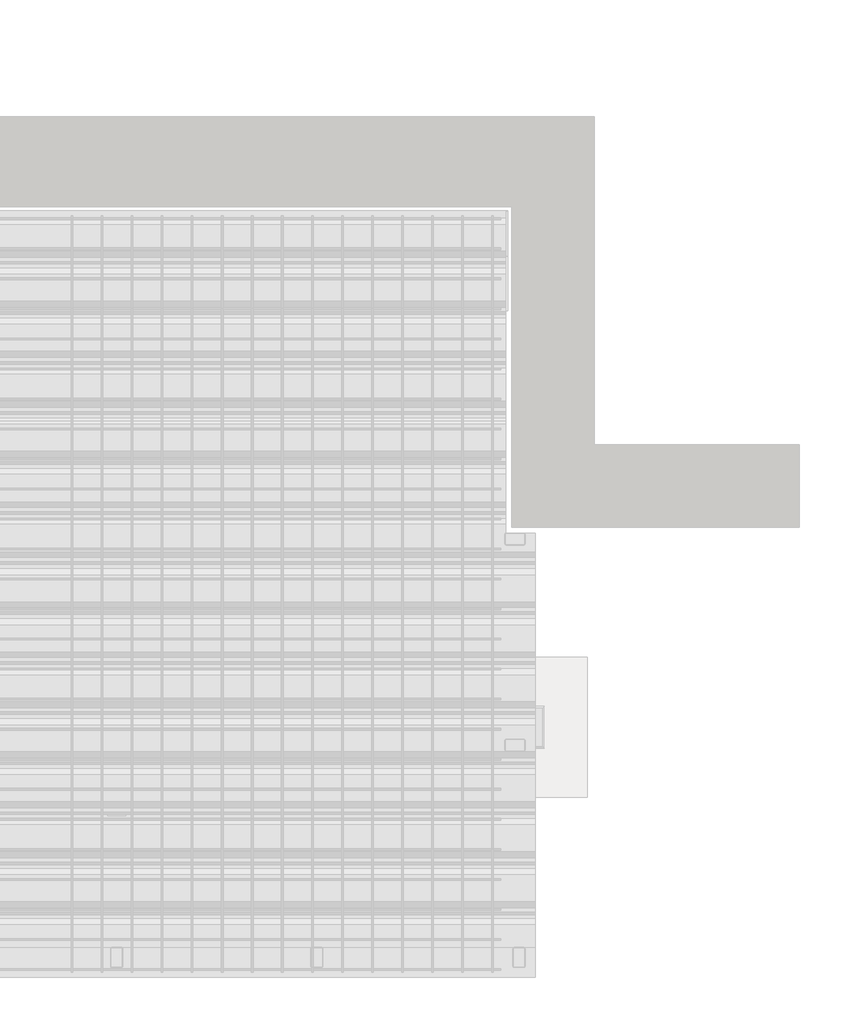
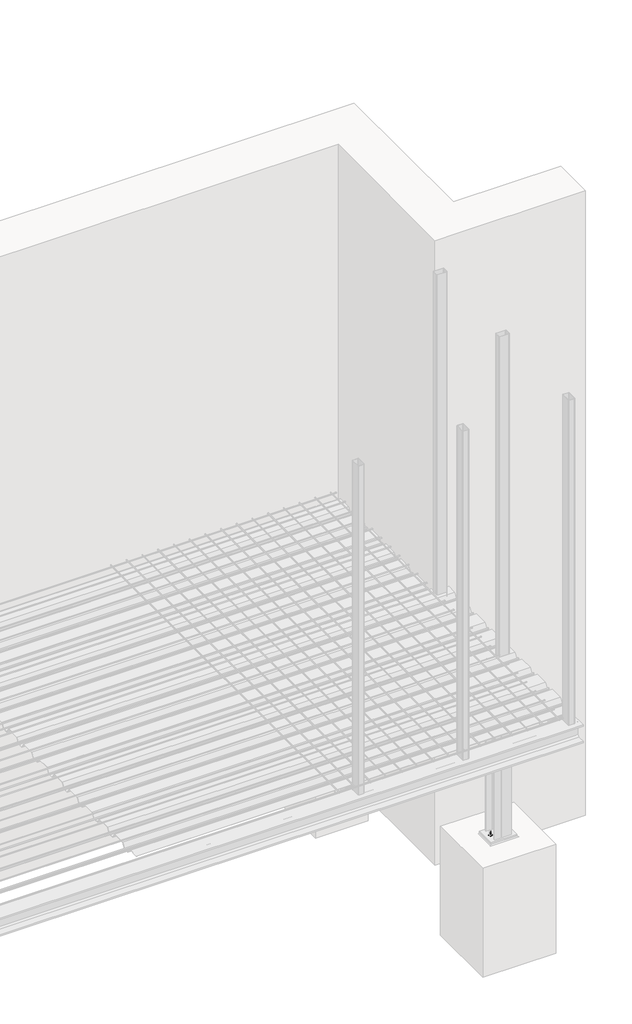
# One storey, part 35 of 36: 6 assemblies.
"""IFC4 building model written with IfcOpenShell, lengths in millimetres."""

import ifcopenshell
import ifcopenshell.guid

model = None  # the IFC model being written
_history = None  # IfcOwnerHistory: only IFC2X3 demands one
_inside = {}  # id of a spatial element -> (the spatial element, [elements in it])
_under = {}  # id of a project, library or spatial element -> (it, [spatial elements below it])
_declared = {}  # id of a project -> (the project, [libraries it declares])
_typed = {}  # id of a type object -> (the type object, [elements of that type])
_made_of = {}  # id of a material, layer set ... -> (it, [elements and type objects made of it])


def new_model(schema):
    """Start an empty IFC model of exactly this schema.

    Asked for "IFC4X3", IfcOpenShell would pick the latest addendum, in which some entities
    have other attributes; the version numbers below select the first issue.
    IFC2X3 requires an IfcOwnerHistory on every rooted entity: one is made here for all.
    """
    global model, _history
    if schema == "IFC4X3":
        model = ifcopenshell.file(schema_version=(4, 3, 0, 0))
    else:
        model = ifcopenshell.file(schema=schema)
    _inside.clear()
    _under.clear()
    _declared.clear()
    _typed.clear()
    _made_of.clear()
    _history = None
    if model.schema == "IFC2X3":
        org = make("IfcOrganization", Name="unknown")
        user = make(
            "IfcPersonAndOrganization",
            ThePerson=make("IfcPerson", FamilyName="unknown"),
            TheOrganization=org,
        )
        app = make(
            "IfcApplication",
            ApplicationDeveloper=org,
            Version="unknown",
            ApplicationFullName="unknown",
            ApplicationIdentifier="unknown",
        )
        _history = make(
            "IfcOwnerHistory",
            OwningUser=user,
            OwningApplication=app,
            ChangeAction="ADDED",
            CreationDate=0,
        )
    return model


def make(cls, **values):
    """One entity of the class cls with the attributes given. An attribute that is None is left unset."""
    return model.create_entity(
        cls, **{name: value for name, value in values.items() if value is not None}
    )


def rooted(cls, **values):
    """An entity with a GlobalId (a new one), such as an element, a storey or a relation."""
    return make(cls, GlobalId=ifcopenshell.guid.new(), OwnerHistory=_history, **values)


def si_unit(unit_type, name, prefix=None):
    """IfcSIUnit, for example si_unit("LENGTHUNIT", "METRE", prefix="MILLI")."""
    return make("IfcSIUnit", UnitType=unit_type, Prefix=prefix, Name=name)


def assignment(units):
    """IfcUnitAssignment: the units of a project."""
    return None if units is None else make("IfcUnitAssignment", Units=units)


def point(xyz):
    """IfcCartesianPoint."""
    return None if xyz is None else make("IfcCartesianPoint", Coordinates=xyz)


def direction(xyz):
    """IfcDirection."""
    return None if xyz is None else make("IfcDirection", DirectionRatios=xyz)


def frame(location, z_axis=None, x_axis=None):
    """IfcAxis2Placement3D, a coordinate frame: its origin and axes. An axis left out is left unset."""
    return make(
        "IfcAxis2Placement3D",
        Location=point(location),
        Axis=direction(z_axis),
        RefDirection=direction(x_axis),
    )


def frame_2d(location, x_axis=None):
    """IfcAxis2Placement2D, a coordinate frame in the plane: its origin and x axis."""
    return make(
        "IfcAxis2Placement2D", Location=point(location), RefDirection=direction(x_axis)
    )


def origin():
    """The frame at (0, 0, 0) with its axes left unset."""
    return frame((0.0, 0.0, 0.0))


def place(relative_to, where):
    """IfcLocalPlacement: puts the frame where relative to a parent placement (None: the world)."""
    return make(
        "IfcLocalPlacement", PlacementRelTo=relative_to, RelativePlacement=where
    )


def context(
    kind, dimensions, precision=None, world=None, true_north=None, identifier=None
):
    """IfcGeometricRepresentationContext, for example the 3D "Model" context."""
    return make(
        "IfcGeometricRepresentationContext",
        ContextIdentifier=identifier,
        ContextType=kind,
        CoordinateSpaceDimension=dimensions,
        Precision=precision,
        WorldCoordinateSystem=world,
        TrueNorth=true_north,
    )


def project(units=None, contexts=None):
    """IfcProject with its units and contexts."""
    return rooted(
        "IfcProject",
        Name="project",
        RepresentationContexts=contexts,
        UnitsInContext=assignment(units),
    )


def spatial(cls, under=None, at=None, **own):
    """A site, building, storey or space (cls), placed at a placement, below another one or the project."""
    s = rooted(cls, ObjectPlacement=at, **own)
    if under is not None:
        _under.setdefault(under.id(), (under, []))[1].append(s)
    return s


def polyline(points):
    """IfcPolyline through the points."""
    return make("IfcPolyline", Points=[point(p) for p in points])


def circle_curve(where, radius):
    """IfcCircle in the frame where."""
    return make("IfcCircle", Position=where, Radius=radius)


def trimmed(basis, trim1, trim2, sense, master):
    """IfcTrimmedCurve: the piece of a basis curve between two trims."""
    return make(
        "IfcTrimmedCurve",
        BasisCurve=basis,
        Trim1=trim1,
        Trim2=trim2,
        SenseAgreement=sense,
        MasterRepresentation=master,
    )


def segment(curve, same_sense, transition):
    """IfcCompositeCurveSegment."""
    return make(
        "IfcCompositeCurveSegment",
        Transition=transition,
        SameSense=same_sense,
        ParentCurve=curve,
    )


def composite_curve(segments, self_intersect=None):
    """IfcCompositeCurve: segments joined end to end."""
    return make("IfcCompositeCurve", Segments=segments, SelfIntersect=self_intersect)


def outline(outer, holes=None, kind="AREA"):
    """IfcArbitraryClosedProfileDef: a profile drawn as a closed curve; with holes, ...WithVoids."""
    if holes is None:
        return make("IfcArbitraryClosedProfileDef", ProfileType=kind, OuterCurve=outer)
    return make(
        "IfcArbitraryProfileDefWithVoids",
        ProfileType=kind,
        OuterCurve=outer,
        InnerCurves=holes,
    )


def extrude(swept, where, along, depth):
    """IfcExtrudedAreaSolid: the profile swept, set in the frame where, extruded along a direction by depth."""
    return make(
        "IfcExtrudedAreaSolid",
        SweptArea=swept,
        Position=where,
        ExtrudedDirection=direction(along),
        Depth=depth,
    )


def faces_of(points, faces, orient=None, outer=None):
    """IfcFace entities. A face is a list of loops; a loop is a list of indices into points, from 0.

    orient and outer hold one flag for each loop. By default every Orientation is true, the
    first loop of a face is its IfcFaceOuterBound and the others are IfcFaceBound.
    """
    made = []
    for i, loops in enumerate(faces):
        bounds = []
        for j, loop in enumerate(loops):
            is_outer = j == 0 if outer is None else outer[i][j]
            bounds.append(
                make(
                    "IfcFaceOuterBound" if is_outer else "IfcFaceBound",
                    Bound=make("IfcPolyLoop", Polygon=[points[k] for k in loop]),
                    Orientation=True if orient is None else orient[i][j],
                )
            )
        made.append(make("IfcFace", Bounds=bounds))
    return made


def faceted_brep(points, faces, orient=None, outer=None, voids=None):
    """IfcFacetedBrep: a solid bounded by flat faces; with voids (closed shells), ...WithVoids."""
    shared = [point(p) for p in points]
    hull = make("IfcClosedShell", CfsFaces=faces_of(shared, faces, orient, outer))
    if voids is None:
        return make("IfcFacetedBrep", Outer=hull)
    return make(
        "IfcFacetedBrepWithVoids",
        Outer=hull,
        Voids=[
            make(cls, CfsFaces=faces_of(shared, fs, o, b)) for cls, fs, o, b in voids
        ],
    )


def shape(context_of_items, identifier, shape_type, items):
    """IfcShapeRepresentation: the items that make up one representation, for example the "Body"."""
    return make(
        "IfcShapeRepresentation",
        ContextOfItems=context_of_items,
        RepresentationIdentifier=identifier,
        RepresentationType=shape_type,
        Items=items,
    )


def made_of(thing, what):
    """Note that an element or type object is made of a material, layer set ...; save() writes the relation."""
    if what is not None:
        _made_of.setdefault(what.id(), (what, []))[1].append(thing)
    return thing


def element(
    cls,
    number,
    at=None,
    inside=None,
    cuts=None,
    type_object=None,
    material=None,
    context=None,
    identifier="Body",
    shape_type=None,
    held_by="IfcProductDefinitionShape",
    body=None,
    shapes=None,
    **own,
):
    """One element of the class cls, such as IfcWall. Its Tag is "e" and its number.

    at: its placement. inside: the storey or other place that contains it. cuts: it is an
    opening in that element (IfcRelVoidsElement). A single representation is given by context,
    identifier, shape_type and body (its items); several are given by shapes. held_by: the class
    of the entity that holds the representations. save() writes the other relations.
    """
    e = rooted(cls, Tag="e%d" % number, ObjectPlacement=at, **own)
    if body is not None:
        shapes = [shape(context, identifier, shape_type, body)]
    if shapes is not None:
        e.Representation = make(held_by, Representations=shapes)
    if inside is not None:
        _inside.setdefault(inside.id(), (inside, []))[1].append(e)
    if cuts is not None:
        rooted(
            "IfcRelVoidsElement", RelatingBuildingElement=cuts, RelatedOpeningElement=e
        )
    if type_object is not None:
        _typed.setdefault(type_object.id(), (type_object, []))[1].append(e)
    return made_of(e, material)


def aggregate(whole, parts):
    """IfcRelAggregates: a whole, such as a stair, and the parts it consists of."""
    return rooted("IfcRelAggregates", RelatingObject=whole, RelatedObjects=parts)


def save(model, path):
    """Write the relations noted so far, then the file.

    IfcRelAggregates (storeys below a building ...), IfcRelContainedInSpatialStructure (elements
    in a storey), IfcRelDefinesByType, IfcRelAssociatesMaterial and IfcRelDeclares: one each for
    every whole, place, type object, material and project.
    """
    for whole, parts in _under.values():
        aggregate(whole, parts)
    for where, things in _inside.values():
        rooted(
            "IfcRelContainedInSpatialStructure",
            RelatedElements=things,
            RelatingStructure=where,
        )
    for kind, things in _typed.values():
        rooted("IfcRelDefinesByType", RelatedObjects=things, RelatingType=kind)
    for what, things in _made_of.values():
        rooted("IfcRelAssociatesMaterial", RelatedObjects=things, RelatingMaterial=what)
    for by, libraries in _declared.values():
        rooted("IfcRelDeclares", RelatingContext=by, RelatedDefinitions=libraries)
    model.write(path)


model = new_model("IFC4")

# Units and contexts
model_context = context("Model", 3, world=origin())
ifc_project = project(units=[si_unit("LENGTHUNIT", "METRE", prefix="MILLI")], contexts=[model_context])

# Site, building, storey
site = spatial("IfcSite", under=ifc_project)
building = spatial("IfcBuilding", under=site)
storey = spatial("IfcBuildingStorey", under=building, Name="Základy", Elevation=-1200.0)

# Assemblies
placement = place(None, origin())
element("IfcElementAssembly", 1, at=placement, inside=storey, context=model_context, shape_type="SweptSolid", body=[
    extrude(outline(composite_curve([segment(polyline([(16090.0, 1193.6), (16090.0, 1146.4)]), True, "CONTINUOUS"), segment(trimmed(circle_curve(frame_2d((16083.6, 1146.4)), 6.4), [point((16090.0, 1146.4))], [point((16083.6, 1140.0))], False, "CARTESIAN"), True, "CONTINUOUS"), segment(polyline([(16083.6, 1140.0), (15996.4, 1140.0)]), True, "CONTINUOUS"), segment(trimmed(circle_curve(frame_2d((15996.4, 1146.4)), 6.4), [point((15996.4, 1140.0))], [point((15990.0, 1146.4))], False, "CARTESIAN"), True, "CONTINUOUS"), segment(polyline([(15990.0, 1146.4), (15990.0, 1193.6)]), True, "CONTINUOUS"), segment(trimmed(circle_curve(frame_2d((15996.4, 1193.6)), 6.4), [point((15990.0, 1193.6))], [point((15996.4, 1200.0))], False, "CARTESIAN"), True, "CONTINUOUS"), segment(polyline([(15996.4, 1200.0), (16083.6, 1200.0)]), True, "CONTINUOUS"), segment(trimmed(circle_curve(frame_2d((16083.6, 1193.6)), 6.4), [point((16083.6, 1200.0))], [point((16090.0, 1193.6))], False, "CARTESIAN"), True, "CONTINUOUS")], self_intersect=False), holes=[composite_curve([segment(trimmed(circle_curve(frame_2d((16083.6, 1193.6)), 3.2), [point((16086.8, 1193.6))], [point((16083.6, 1196.8))], True, "CARTESIAN"), True, "CONTINUOUS"), segment(polyline([(16083.6, 1196.8), (15996.4, 1196.8)]), True, "CONTINUOUS"), segment(trimmed(circle_curve(frame_2d((15996.4, 1193.6)), 3.2), [point((15996.4, 1196.8))], [point((15993.2, 1193.6))], True, "CARTESIAN"), True, "CONTINUOUS"), segment(polyline([(15993.2, 1193.6), (15993.2, 1146.4)]), True, "CONTINUOUS"), segment(trimmed(circle_curve(frame_2d((15996.4, 1146.4)), 3.2), [point((15993.2, 1146.4))], [point((15996.4, 1143.2))], True, "CARTESIAN"), True, "CONTINUOUS"), segment(polyline([(15996.4, 1143.2), (16083.6, 1143.2)]), True, "CONTINUOUS"), segment(trimmed(circle_curve(frame_2d((16083.6, 1146.4)), 3.2), [point((16083.6, 1143.2))], [point((16086.8, 1146.4))], True, "CARTESIAN"), True, "CONTINUOUS"), segment(polyline([(16086.8, 1146.4), (16086.8, 1193.6)]), True, "CONTINUOUS")], self_intersect=False)]), frame((0.0, 0.0, -160.0), z_axis=(0.0, 0.0, 1.0), x_axis=(1.0, 0.0, 0.0)), (0.0, 0.0, 1.0), 3280.0),
])
element("IfcElementAssembly", 2, at=placement, inside=storey, context=model_context, shape_type="SweptSolid", body=[
    extrude(outline(polyline([(16400.0, 1610.0), (16400.0, 910.0), (15700.0, 910.0), (15700.0, 1610.0), (16400.0, 1610.0)])), frame((0.0, 0.0, -3100.0), z_axis=(0.0, 0.0, 1.0), x_axis=(1.0, 0.0, 0.0)), (0.0, 0.0, 1.0), 1100.0),
])
element("IfcElementAssembly", 3, at=placement, inside=storey, context=model_context, shape_type="SweptSolid", body=[
    extrude(outline(composite_curve([segment(polyline([(16036.4, 160.0), (16083.6, 160.0)]), True, "CONTINUOUS"), segment(trimmed(circle_curve(frame_2d((16083.6, 153.6)), 6.4), [point((16083.6, 160.0))], [point((16090.0, 153.6))], False, "CARTESIAN"), True, "CONTINUOUS"), segment(polyline([(16090.0, 153.6), (16090.0, 66.4)]), True, "CONTINUOUS"), segment(trimmed(circle_curve(frame_2d((16083.6, 66.4)), 6.4), [point((16090.0, 66.4))], [point((16083.6, 60.0))], False, "CARTESIAN"), True, "CONTINUOUS"), segment(polyline([(16083.6, 60.0), (16036.4, 60.0)]), True, "CONTINUOUS"), segment(trimmed(circle_curve(frame_2d((16036.4, 66.4)), 6.4), [point((16036.4, 60.0))], [point((16030.0, 66.4))], False, "CARTESIAN"), True, "CONTINUOUS"), segment(polyline([(16030.0, 66.4), (16030.0, 153.6)]), True, "CONTINUOUS"), segment(trimmed(circle_curve(frame_2d((16036.4, 153.6)), 6.4), [point((16030.0, 153.6))], [point((16036.4, 160.0))], False, "CARTESIAN"), True, "CONTINUOUS")], self_intersect=False), holes=[composite_curve([segment(trimmed(circle_curve(frame_2d((16036.4, 153.6)), 3.2), [point((16036.4, 156.8))], [point((16033.2, 153.6))], True, "CARTESIAN"), True, "CONTINUOUS"), segment(polyline([(16033.2, 153.6), (16033.2, 66.4)]), True, "CONTINUOUS"), segment(trimmed(circle_curve(frame_2d((16036.4, 66.4)), 3.2), [point((16033.2, 66.4))], [point((16036.4, 63.2))], True, "CARTESIAN"), True, "CONTINUOUS"), segment(polyline([(16036.4, 63.2), (16083.6, 63.2)]), True, "CONTINUOUS"), segment(trimmed(circle_curve(frame_2d((16083.6, 66.4)), 3.2), [point((16083.6, 63.2))], [point((16086.8, 66.4))], True, "CARTESIAN"), True, "CONTINUOUS"), segment(polyline([(16086.8, 66.4), (16086.8, 153.6)]), True, "CONTINUOUS"), segment(trimmed(circle_curve(frame_2d((16083.6, 153.6)), 3.2), [point((16086.8, 153.6))], [point((16083.6, 156.8))], True, "CARTESIAN"), True, "CONTINUOUS"), segment(polyline([(16083.6, 156.8), (16036.4, 156.8)]), True, "CONTINUOUS")], self_intersect=False)]), frame((0.0, 0.0, -160.0), z_axis=(0.0, 0.0, 1.0), x_axis=(1.0, 0.0, 0.0)), (0.0, 0.0, 1.0), 3280.0),
])
element("IfcElementAssembly", 4, at=placement, inside=storey, context=model_context, shape_type="SweptSolid", body=[
    extrude(outline(composite_curve([segment(polyline([(16130.0, 1184.0), (15970.0, 1184.0), (15970.0, 1193.0), (16032.0, 1193.0)]), True, "CONTINUOUS"), segment(trimmed(circle_curve(frame_2d((16032.0, 1208.0)), 15.0), [point((16032.0, 1193.0))], [point((16047.0, 1208.0))], True, "CARTESIAN"), True, "CONTINUOUS"), segment(polyline([(16047.0, 1208.0), (16047.0, 1312.0)]), True, "CONTINUOUS"), segment(trimmed(circle_curve(frame_2d((16032.0, 1312.0)), 15.0), [point((16047.0, 1312.0))], [point((16032.0, 1327.0))], True, "CARTESIAN"), True, "CONTINUOUS"), segment(polyline([(16032.0, 1327.0), (15970.0, 1327.0), (15970.0, 1336.0), (16130.0, 1336.0), (16130.0, 1327.0), (16068.0, 1327.0)]), True, "CONTINUOUS"), segment(trimmed(circle_curve(frame_2d((16068.0, 1312.0)), 15.0), [point((16068.0, 1327.0))], [point((16053.0, 1312.0))], True, "CARTESIAN"), True, "CONTINUOUS"), segment(polyline([(16053.0, 1312.0), (16053.0, 1208.0)]), True, "CONTINUOUS"), segment(trimmed(circle_curve(frame_2d((16068.0, 1208.0)), 15.0), [point((16053.0, 1208.0))], [point((16068.0, 1193.0))], True, "CARTESIAN"), True, "CONTINUOUS"), segment(polyline([(16068.0, 1193.0), (16130.0, 1193.0), (16130.0, 1184.0)]), True, "CONTINUOUS")], self_intersect=False)), frame((0.0, 0.0, -1975.0), z_axis=(0.0, 0.0, 1.0), x_axis=(1.0, 0.0, 0.0)), (0.0, 0.0, 1.0), 1625.0),
    extrude(outline(polyline([(16175.0, 1356.0), (16175.0, 1164.0), (15925.0, 1164.0), (15925.0, 1356.0), (16175.0, 1356.0)])), frame((0.0, 0.0, -1990.0), z_axis=(0.0, 0.0, 1.0), x_axis=(1.0, 0.0, 0.0)), (0.0, 0.0, 1.0), 15.0),
    extrude(outline(polyline([(16140.0, 1346.0), (16140.0, 1174.0), (15960.0, 1174.0), (15960.0, 1346.0), (16140.0, 1346.0)])), frame((0.0, 0.0, -350.0), z_axis=(0.0, 0.0, 1.0), x_axis=(1.0, 0.0, 0.0)), (0.0, 0.0, 1.0), 10.0),
    extrude(outline(polyline([(15982.7364934, 1260.0), (15978.8682467, 1253.3000002), (15971.1317533, 1253.3000002), (15967.2635066, 1260.0), (15971.1317533, 1266.6999998), (15978.8682467, 1266.6999998), (15982.7364934, 1260.0)])), frame((0.0, 0.0, -2122.0), z_axis=(0.0, 0.0, 1.0), x_axis=(1.0, 0.0, 0.0)), (0.0, 0.0, 1.0), 132.0),
    extrude(outline(composite_curve([segment(trimmed(circle_curve(frame_2d((15975.0, 1260.0)), 8.0), [point((15983.0, 1260.0))], [point((15967.0, 1260.0))], False, "CARTESIAN"), True, "CONTINUOUS"), segment(trimmed(circle_curve(frame_2d((15975.0, 1260.0)), 8.0), [point((15967.0, 1260.0))], [point((15983.0, 1260.0))], False, "CARTESIAN"), True, "CONTINUOUS")], self_intersect=False)), frame((0.0, 0.0, -1990.0), z_axis=(0.0, 0.0, 1.0), x_axis=(1.0, 0.0, 0.0)), (0.0, 0.0, 1.0), 58.0),
    extrude(outline(composite_curve([segment(trimmed(circle_curve(frame_2d((15975.0, 1260.0)), 15.0), [point((15990.0, 1260.0))], [point((15960.0, 1260.0))], False, "CARTESIAN"), True, "CONTINUOUS"), segment(trimmed(circle_curve(frame_2d((15975.0, 1260.0)), 15.0), [point((15960.0, 1260.0))], [point((15990.0, 1260.0))], False, "CARTESIAN"), True, "CONTINUOUS")], self_intersect=False)), frame((0.0, 0.0, -1975.0), z_axis=(0.0, 0.0, 1.0), x_axis=(1.0, 0.0, 0.0)), (0.0, 0.0, 1.0), 3.0),
    extrude(outline(polyline([(15990.4441197, 1260.0), (15982.7220599, 1246.625), (15967.2779401, 1246.625), (15959.5558803, 1260.0), (15967.2779401, 1273.375), (15982.7220599, 1273.375), (15990.4441197, 1260.0)])), frame((0.0, 0.0, -1972.0), z_axis=(0.0, 0.0, 1.0), x_axis=(1.0, 0.0, 0.0)), (0.0, 0.0, 1.0), 13.0),
    extrude(outline(composite_curve([segment(trimmed(circle_curve(frame_2d((15975.0, 1260.0)), 9.0), [point((15984.0, 1260.0))], [point((15966.0, 1260.0))], False, "CARTESIAN"), True, "CONTINUOUS"), segment(trimmed(circle_curve(frame_2d((15975.0, 1260.0)), 9.0), [point((15966.0, 1260.0))], [point((15984.0, 1260.0))], False, "CARTESIAN"), True, "CONTINUOUS")], self_intersect=False)), frame((0.0, 0.0, -1990.0), z_axis=(0.0, 0.0, 1.0), x_axis=(1.0, 0.0, 0.0)), (0.0, 0.0, 1.0), 15.1),
    extrude(outline(polyline([(16132.7364934, 1260.0), (16128.8682467, 1253.3000002), (16121.1317533, 1253.3000002), (16117.2635066, 1260.0), (16121.1317533, 1266.6999998), (16128.8682467, 1266.6999998), (16132.7364934, 1260.0)])), frame((0.0, 0.0, -2122.0), z_axis=(0.0, 0.0, 1.0), x_axis=(1.0, 0.0, 0.0)), (0.0, 0.0, 1.0), 132.0),
    extrude(outline(composite_curve([segment(trimmed(circle_curve(frame_2d((16125.0, 1260.0)), 8.0), [point((16133.0, 1260.0))], [point((16117.0, 1260.0))], False, "CARTESIAN"), True, "CONTINUOUS"), segment(trimmed(circle_curve(frame_2d((16125.0, 1260.0)), 8.0), [point((16117.0, 1260.0))], [point((16133.0, 1260.0))], False, "CARTESIAN"), True, "CONTINUOUS")], self_intersect=False)), frame((0.0, 0.0, -1990.0), z_axis=(0.0, 0.0, 1.0), x_axis=(1.0, 0.0, 0.0)), (0.0, 0.0, 1.0), 58.0),
    extrude(outline(composite_curve([segment(trimmed(circle_curve(frame_2d((16125.0, 1260.0)), 15.0), [point((16140.0, 1260.0))], [point((16110.0, 1260.0))], False, "CARTESIAN"), True, "CONTINUOUS"), segment(trimmed(circle_curve(frame_2d((16125.0, 1260.0)), 15.0), [point((16110.0, 1260.0))], [point((16140.0, 1260.0))], False, "CARTESIAN"), True, "CONTINUOUS")], self_intersect=False)), frame((0.0, 0.0, -1975.0), z_axis=(0.0, 0.0, 1.0), x_axis=(1.0, 0.0, 0.0)), (0.0, 0.0, 1.0), 3.0),
    extrude(outline(polyline([(16140.4441197, 1260.0), (16132.7220599, 1246.625), (16117.2779401, 1246.625), (16109.5558803, 1260.0), (16117.2779401, 1273.375), (16132.7220599, 1273.375), (16140.4441197, 1260.0)])), frame((0.0, 0.0, -1972.0), z_axis=(0.0, 0.0, 1.0), x_axis=(1.0, 0.0, 0.0)), (0.0, 0.0, 1.0), 13.0),
    extrude(outline(composite_curve([segment(trimmed(circle_curve(frame_2d((16125.0, 1260.0)), 9.0), [point((16134.0, 1260.0))], [point((16116.0, 1260.0))], False, "CARTESIAN"), True, "CONTINUOUS"), segment(trimmed(circle_curve(frame_2d((16125.0, 1260.0)), 9.0), [point((16116.0, 1260.0))], [point((16134.0, 1260.0))], False, "CARTESIAN"), True, "CONTINUOUS")], self_intersect=False)), frame((0.0, 0.0, -1990.0), z_axis=(0.0, 0.0, 1.0), x_axis=(1.0, 0.0, 0.0)), (0.0, 0.0, 1.0), 15.1),
    extrude(outline(composite_curve([segment(trimmed(circle_curve(frame_2d((16000.0, 1220.0)), 6.5), [point((16006.5, 1220.0))], [point((15993.5, 1220.0))], False, "CARTESIAN"), True, "CONTINUOUS"), segment(trimmed(circle_curve(frame_2d((16000.0, 1220.0)), 6.5), [point((15993.5, 1220.0))], [point((16006.5, 1220.0))], False, "CARTESIAN"), True, "CONTINUOUS")], self_intersect=False)), frame((0.0, 0.0, -350.0), z_axis=(0.0, 0.0, 1.0), x_axis=(1.0, 0.0, 0.0)), (0.0, 0.0, 1.0), 10.1),
    extrude(outline(polyline([(16010.3923048, 1220.0), (16005.1961524, 1211.0), (15994.8038476, 1211.0), (15989.6076952, 1220.0), (15994.8038476, 1229.0), (16005.1961524, 1229.0), (16010.3923048, 1220.0)])), frame((0.0, 0.0, -323.5), z_axis=(0.0, 0.0, 1.0), x_axis=(1.0, 0.0, 0.0)), (0.0, 0.0, 1.0), 7.5),
    extrude(outline(composite_curve([segment(trimmed(circle_curve(frame_2d((16000.0, 1220.0)), 6.0), [point((16006.0, 1220.0))], [point((15994.0, 1220.0))], False, "CARTESIAN"), True, "CONTINUOUS"), segment(trimmed(circle_curve(frame_2d((16000.0, 1220.0)), 6.0), [point((15994.0, 1220.0))], [point((16006.0, 1220.0))], False, "CARTESIAN"), True, "CONTINUOUS")], self_intersect=False)), frame((0.0, 0.0, -368.5), z_axis=(0.0, 0.0, 1.0), x_axis=(1.0, 0.0, 0.0)), (0.0, 0.0, 1.0), 45.0),
    extrude(outline(composite_curve([segment(trimmed(circle_curve(frame_2d((16000.0, 1220.0)), 12.0), [point((16012.0, 1220.0))], [point((15988.0, 1220.0))], False, "CARTESIAN"), True, "CONTINUOUS"), segment(trimmed(circle_curve(frame_2d((16000.0, 1220.0)), 12.0), [point((15988.0, 1220.0))], [point((16012.0, 1220.0))], False, "CARTESIAN"), True, "CONTINUOUS")], self_intersect=False)), frame((0.0, 0.0, -326.0), z_axis=(0.0, 0.0, 1.0), x_axis=(1.0, 0.0, 0.0)), (0.0, 0.0, 1.0), 2.5),
    extrude(outline(composite_curve([segment(trimmed(circle_curve(frame_2d((16000.0, 1220.0)), 12.0), [point((16012.0, 1220.0))], [point((15988.0, 1220.0))], False, "CARTESIAN"), True, "CONTINUOUS"), segment(trimmed(circle_curve(frame_2d((16000.0, 1220.0)), 12.0), [point((15988.0, 1220.0))], [point((16012.0, 1220.0))], False, "CARTESIAN"), True, "CONTINUOUS")], self_intersect=False)), frame((0.0, 0.0, -352.5), z_axis=(0.0, 0.0, 1.0), x_axis=(1.0, 0.0, 0.0)), (0.0, 0.0, 1.0), 2.5),
    extrude(outline(polyline([(16010.9696551, 1220.0), (16005.4848276, 1210.5), (15994.5151724, 1210.5), (15989.0303449, 1220.0), (15994.5151724, 1229.5), (16005.4848276, 1229.5), (16010.9696551, 1220.0)])), frame((0.0, 0.0, -362.5), z_axis=(0.0, 0.0, 1.0), x_axis=(1.0, 0.0, 0.0)), (0.0, 0.0, 1.0), 10.0),
    extrude(outline(composite_curve([segment(trimmed(circle_curve(frame_2d((16000.0, 1220.0)), 6.5), [point((16006.5, 1220.0))], [point((15993.5, 1220.0))], False, "CARTESIAN"), True, "CONTINUOUS"), segment(trimmed(circle_curve(frame_2d((16000.0, 1220.0)), 6.5), [point((15993.5, 1220.0))], [point((16006.5, 1220.0))], False, "CARTESIAN"), True, "CONTINUOUS")], self_intersect=False)), frame((0.0, 0.0, -340.1), z_axis=(0.0, 0.0, 1.0), x_axis=(1.0, 0.0, 0.0)), (0.0, 0.0, 1.0), 14.0),
    extrude(outline(composite_curve([segment(trimmed(circle_curve(frame_2d((16100.0, 1220.0)), 6.5), [point((16106.5, 1220.0))], [point((16093.5, 1220.0))], False, "CARTESIAN"), True, "CONTINUOUS"), segment(trimmed(circle_curve(frame_2d((16100.0, 1220.0)), 6.5), [point((16093.5, 1220.0))], [point((16106.5, 1220.0))], False, "CARTESIAN"), True, "CONTINUOUS")], self_intersect=False)), frame((0.0, 0.0, -350.0), z_axis=(0.0, 0.0, 1.0), x_axis=(1.0, 0.0, 0.0)), (0.0, 0.0, 1.0), 10.1),
    extrude(outline(polyline([(16110.3923048, 1220.0), (16105.1961524, 1211.0), (16094.8038476, 1211.0), (16089.6076952, 1220.0), (16094.8038476, 1229.0), (16105.1961524, 1229.0), (16110.3923048, 1220.0)])), frame((0.0, 0.0, -323.5), z_axis=(0.0, 0.0, 1.0), x_axis=(1.0, 0.0, 0.0)), (0.0, 0.0, 1.0), 7.5),
    extrude(outline(composite_curve([segment(trimmed(circle_curve(frame_2d((16100.0, 1220.0)), 6.0), [point((16106.0, 1220.0))], [point((16094.0, 1220.0))], False, "CARTESIAN"), True, "CONTINUOUS"), segment(trimmed(circle_curve(frame_2d((16100.0, 1220.0)), 6.0), [point((16094.0, 1220.0))], [point((16106.0, 1220.0))], False, "CARTESIAN"), True, "CONTINUOUS")], self_intersect=False)), frame((0.0, 0.0, -368.5), z_axis=(0.0, 0.0, 1.0), x_axis=(1.0, 0.0, 0.0)), (0.0, 0.0, 1.0), 45.0),
    extrude(outline(composite_curve([segment(trimmed(circle_curve(frame_2d((16100.0, 1220.0)), 12.0), [point((16112.0, 1220.0))], [point((16088.0, 1220.0))], False, "CARTESIAN"), True, "CONTINUOUS"), segment(trimmed(circle_curve(frame_2d((16100.0, 1220.0)), 12.0), [point((16088.0, 1220.0))], [point((16112.0, 1220.0))], False, "CARTESIAN"), True, "CONTINUOUS")], self_intersect=False)), frame((0.0, 0.0, -326.0), z_axis=(0.0, 0.0, 1.0), x_axis=(1.0, 0.0, 0.0)), (0.0, 0.0, 1.0), 2.5),
    extrude(outline(composite_curve([segment(trimmed(circle_curve(frame_2d((16100.0, 1220.0)), 12.0), [point((16112.0, 1220.0))], [point((16088.0, 1220.0))], False, "CARTESIAN"), True, "CONTINUOUS"), segment(trimmed(circle_curve(frame_2d((16100.0, 1220.0)), 12.0), [point((16088.0, 1220.0))], [point((16112.0, 1220.0))], False, "CARTESIAN"), True, "CONTINUOUS")], self_intersect=False)), frame((0.0, 0.0, -352.5), z_axis=(0.0, 0.0, 1.0), x_axis=(1.0, 0.0, 0.0)), (0.0, 0.0, 1.0), 2.5),
    extrude(outline(polyline([(16110.9696551, 1220.0), (16105.4848276, 1210.5), (16094.5151724, 1210.5), (16089.0303449, 1220.0), (16094.5151724, 1229.5), (16105.4848276, 1229.5), (16110.9696551, 1220.0)])), frame((0.0, 0.0, -362.5), z_axis=(0.0, 0.0, 1.0), x_axis=(1.0, 0.0, 0.0)), (0.0, 0.0, 1.0), 10.0),
    extrude(outline(composite_curve([segment(trimmed(circle_curve(frame_2d((16100.0, 1220.0)), 6.5), [point((16106.5, 1220.0))], [point((16093.5, 1220.0))], False, "CARTESIAN"), True, "CONTINUOUS"), segment(trimmed(circle_curve(frame_2d((16100.0, 1220.0)), 6.5), [point((16093.5, 1220.0))], [point((16106.5, 1220.0))], False, "CARTESIAN"), True, "CONTINUOUS")], self_intersect=False)), frame((0.0, 0.0, -340.1), z_axis=(0.0, 0.0, 1.0), x_axis=(1.0, 0.0, 0.0)), (0.0, 0.0, 1.0), 14.0),
    extrude(outline(composite_curve([segment(trimmed(circle_curve(frame_2d((16000.0, 1300.0)), 6.5), [point((16006.5, 1300.0))], [point((15993.5, 1300.0))], False, "CARTESIAN"), True, "CONTINUOUS"), segment(trimmed(circle_curve(frame_2d((16000.0, 1300.0)), 6.5), [point((15993.5, 1300.0))], [point((16006.5, 1300.0))], False, "CARTESIAN"), True, "CONTINUOUS")], self_intersect=False)), frame((0.0, 0.0, -350.0), z_axis=(0.0, 0.0, 1.0), x_axis=(1.0, 0.0, 0.0)), (0.0, 0.0, 1.0), 10.1),
    extrude(outline(polyline([(16010.3923048, 1300.0), (16005.1961524, 1291.0), (15994.8038476, 1291.0), (15989.6076952, 1300.0), (15994.8038476, 1309.0), (16005.1961524, 1309.0), (16010.3923048, 1300.0)])), frame((0.0, 0.0, -323.5), z_axis=(0.0, 0.0, 1.0), x_axis=(1.0, 0.0, 0.0)), (0.0, 0.0, 1.0), 7.5),
    extrude(outline(composite_curve([segment(trimmed(circle_curve(frame_2d((16000.0, 1300.0)), 6.0), [point((16006.0, 1300.0))], [point((15994.0, 1300.0))], False, "CARTESIAN"), True, "CONTINUOUS"), segment(trimmed(circle_curve(frame_2d((16000.0, 1300.0)), 6.0), [point((15994.0, 1300.0))], [point((16006.0, 1300.0))], False, "CARTESIAN"), True, "CONTINUOUS")], self_intersect=False)), frame((0.0, 0.0, -368.5), z_axis=(0.0, 0.0, 1.0), x_axis=(1.0, 0.0, 0.0)), (0.0, 0.0, 1.0), 45.0),
    extrude(outline(composite_curve([segment(trimmed(circle_curve(frame_2d((16000.0, 1300.0)), 12.0), [point((16012.0, 1300.0))], [point((15988.0, 1300.0))], False, "CARTESIAN"), True, "CONTINUOUS"), segment(trimmed(circle_curve(frame_2d((16000.0, 1300.0)), 12.0), [point((15988.0, 1300.0))], [point((16012.0, 1300.0))], False, "CARTESIAN"), True, "CONTINUOUS")], self_intersect=False)), frame((0.0, 0.0, -326.0), z_axis=(0.0, 0.0, 1.0), x_axis=(1.0, 0.0, 0.0)), (0.0, 0.0, 1.0), 2.5),
    extrude(outline(composite_curve([segment(trimmed(circle_curve(frame_2d((16000.0, 1300.0)), 12.0), [point((16012.0, 1300.0))], [point((15988.0, 1300.0))], False, "CARTESIAN"), True, "CONTINUOUS"), segment(trimmed(circle_curve(frame_2d((16000.0, 1300.0)), 12.0), [point((15988.0, 1300.0))], [point((16012.0, 1300.0))], False, "CARTESIAN"), True, "CONTINUOUS")], self_intersect=False)), frame((0.0, 0.0, -352.5), z_axis=(0.0, 0.0, 1.0), x_axis=(1.0, 0.0, 0.0)), (0.0, 0.0, 1.0), 2.5),
    extrude(outline(polyline([(16010.9696551, 1300.0), (16005.4848276, 1290.5), (15994.5151724, 1290.5), (15989.0303449, 1300.0), (15994.5151724, 1309.5), (16005.4848276, 1309.5), (16010.9696551, 1300.0)])), frame((0.0, 0.0, -362.5), z_axis=(0.0, 0.0, 1.0), x_axis=(1.0, 0.0, 0.0)), (0.0, 0.0, 1.0), 10.0),
    extrude(outline(composite_curve([segment(trimmed(circle_curve(frame_2d((16000.0, 1300.0)), 6.5), [point((16006.5, 1300.0))], [point((15993.5, 1300.0))], False, "CARTESIAN"), True, "CONTINUOUS"), segment(trimmed(circle_curve(frame_2d((16000.0, 1300.0)), 6.5), [point((15993.5, 1300.0))], [point((16006.5, 1300.0))], False, "CARTESIAN"), True, "CONTINUOUS")], self_intersect=False)), frame((0.0, 0.0, -340.1), z_axis=(0.0, 0.0, 1.0), x_axis=(1.0, 0.0, 0.0)), (0.0, 0.0, 1.0), 14.0),
    extrude(outline(composite_curve([segment(trimmed(circle_curve(frame_2d((16100.0, 1300.0)), 6.5), [point((16106.5, 1300.0))], [point((16093.5, 1300.0))], False, "CARTESIAN"), True, "CONTINUOUS"), segment(trimmed(circle_curve(frame_2d((16100.0, 1300.0)), 6.5), [point((16093.5, 1300.0))], [point((16106.5, 1300.0))], False, "CARTESIAN"), True, "CONTINUOUS")], self_intersect=False)), frame((0.0, 0.0, -350.0), z_axis=(0.0, 0.0, 1.0), x_axis=(1.0, 0.0, 0.0)), (0.0, 0.0, 1.0), 10.1),
    extrude(outline(polyline([(16110.3923048, 1300.0), (16105.1961524, 1291.0), (16094.8038476, 1291.0), (16089.6076952, 1300.0), (16094.8038476, 1309.0), (16105.1961524, 1309.0), (16110.3923048, 1300.0)])), frame((0.0, 0.0, -323.5), z_axis=(0.0, 0.0, 1.0), x_axis=(1.0, 0.0, 0.0)), (0.0, 0.0, 1.0), 7.5),
    extrude(outline(composite_curve([segment(trimmed(circle_curve(frame_2d((16100.0, 1300.0)), 6.0), [point((16106.0, 1300.0))], [point((16094.0, 1300.0))], False, "CARTESIAN"), True, "CONTINUOUS"), segment(trimmed(circle_curve(frame_2d((16100.0, 1300.0)), 6.0), [point((16094.0, 1300.0))], [point((16106.0, 1300.0))], False, "CARTESIAN"), True, "CONTINUOUS")], self_intersect=False)), frame((0.0, 0.0, -368.5), z_axis=(0.0, 0.0, 1.0), x_axis=(1.0, 0.0, 0.0)), (0.0, 0.0, 1.0), 45.0),
    extrude(outline(composite_curve([segment(trimmed(circle_curve(frame_2d((16100.0, 1300.0)), 12.0), [point((16112.0, 1300.0))], [point((16088.0, 1300.0))], False, "CARTESIAN"), True, "CONTINUOUS"), segment(trimmed(circle_curve(frame_2d((16100.0, 1300.0)), 12.0), [point((16088.0, 1300.0))], [point((16112.0, 1300.0))], False, "CARTESIAN"), True, "CONTINUOUS")], self_intersect=False)), frame((0.0, 0.0, -326.0), z_axis=(0.0, 0.0, 1.0), x_axis=(1.0, 0.0, 0.0)), (0.0, 0.0, 1.0), 2.5),
    extrude(outline(composite_curve([segment(trimmed(circle_curve(frame_2d((16100.0, 1300.0)), 12.0), [point((16112.0, 1300.0))], [point((16088.0, 1300.0))], False, "CARTESIAN"), True, "CONTINUOUS"), segment(trimmed(circle_curve(frame_2d((16100.0, 1300.0)), 12.0), [point((16088.0, 1300.0))], [point((16112.0, 1300.0))], False, "CARTESIAN"), True, "CONTINUOUS")], self_intersect=False)), frame((0.0, 0.0, -352.5), z_axis=(0.0, 0.0, 1.0), x_axis=(1.0, 0.0, 0.0)), (0.0, 0.0, 1.0), 2.5),
    extrude(outline(polyline([(16110.9696551, 1300.0), (16105.4848276, 1290.5), (16094.5151724, 1290.5), (16089.0303449, 1300.0), (16094.5151724, 1309.5), (16105.4848276, 1309.5), (16110.9696551, 1300.0)])), frame((0.0, 0.0, -362.5), z_axis=(0.0, 0.0, 1.0), x_axis=(1.0, 0.0, 0.0)), (0.0, 0.0, 1.0), 10.0),
    extrude(outline(composite_curve([segment(trimmed(circle_curve(frame_2d((16100.0, 1300.0)), 6.5), [point((16106.5, 1300.0))], [point((16093.5, 1300.0))], False, "CARTESIAN"), True, "CONTINUOUS"), segment(trimmed(circle_curve(frame_2d((16100.0, 1300.0)), 6.5), [point((16093.5, 1300.0))], [point((16106.5, 1300.0))], False, "CARTESIAN"), True, "CONTINUOUS")], self_intersect=False)), frame((0.0, 0.0, -340.1), z_axis=(0.0, 0.0, 1.0), x_axis=(1.0, 0.0, 0.0)), (0.0, 0.0, 1.0), 14.0),
])
element("IfcElementAssembly", 5, at=placement, inside=storey, context=model_context, shape_type="SweptSolid", body=[
    extrude(outline(composite_curve([segment(polyline([(15945.0, 3700.0), (15865.0, 3700.0)]), True, "CONTINUOUS"), segment(trimmed(circle_curve(frame_2d((15865.0, 3710.0)), 10.0), [point((15865.0, 3700.0))], [point((15855.0, 3710.0))], False, "CARTESIAN"), True, "CONTINUOUS"), segment(polyline([(15855.0, 3710.0), (15855.0, 3790.0)]), True, "CONTINUOUS"), segment(trimmed(circle_curve(frame_2d((15865.0, 3790.0)), 10.0), [point((15855.0, 3790.0))], [point((15865.0, 3800.0))], False, "CARTESIAN"), True, "CONTINUOUS"), segment(polyline([(15865.0, 3800.0), (15945.0, 3800.0)]), True, "CONTINUOUS"), segment(trimmed(circle_curve(frame_2d((15945.0, 3790.0)), 10.0), [point((15945.0, 3800.0))], [point((15955.0, 3790.0))], False, "CARTESIAN"), True, "CONTINUOUS"), segment(polyline([(15955.0, 3790.0), (15955.0, 3710.0)]), True, "CONTINUOUS"), segment(trimmed(circle_curve(frame_2d((15945.0, 3710.0)), 10.0), [point((15955.0, 3710.0))], [point((15945.0, 3700.0))], False, "CARTESIAN"), True, "CONTINUOUS")], self_intersect=False), holes=[composite_curve([segment(trimmed(circle_curve(frame_2d((15945.0, 3710.0)), 5.0), [point((15945.0, 3705.0))], [point((15950.0, 3710.0))], True, "CARTESIAN"), True, "CONTINUOUS"), segment(polyline([(15950.0, 3710.0), (15950.0, 3790.0)]), True, "CONTINUOUS"), segment(trimmed(circle_curve(frame_2d((15945.0, 3790.0)), 5.0), [point((15950.0, 3790.0))], [point((15945.0, 3795.0))], True, "CARTESIAN"), True, "CONTINUOUS"), segment(polyline([(15945.0, 3795.0), (15865.0, 3795.0)]), True, "CONTINUOUS"), segment(trimmed(circle_curve(frame_2d((15865.0, 3790.0)), 5.0), [point((15865.0, 3795.0))], [point((15860.0, 3790.0))], True, "CARTESIAN"), True, "CONTINUOUS"), segment(polyline([(15860.0, 3790.0), (15860.0, 3710.0)]), True, "CONTINUOUS"), segment(trimmed(circle_curve(frame_2d((15865.0, 3710.0)), 5.0), [point((15860.0, 3710.0))], [point((15865.0, 3705.0))], True, "CARTESIAN"), True, "CONTINUOUS"), segment(polyline([(15865.0, 3705.0), (15945.0, 3705.0)]), True, "CONTINUOUS")], self_intersect=False)]), frame((0.0, 0.0, -1975.0), z_axis=(0.0, 0.0, 1.0), x_axis=(1.0, 0.0, 0.0)), (0.0, 0.0, 1.0), 1625.0),
    extrude(outline(polyline([(15995.0, 3810.0), (15995.0, 3690.0), (15815.0, 3690.0), (15815.0, 3810.0), (15995.0, 3810.0)])), frame((0.0, 0.0, -350.0), z_axis=(0.0, 0.0, 1.0), x_axis=(1.0, 0.0, 0.0)), (0.0, 0.0, 1.0), 10.0),
    extrude(outline(polyline([(15995.0, 3830.0), (15995.0, 3620.0), (15775.0, 3620.0), (15775.0, 3830.0), (15995.0, 3830.0)])), frame((0.0, 0.0, -1990.0), z_axis=(0.0, 0.0, 1.0), x_axis=(1.0, 0.0, 0.0)), (0.0, 0.0, 1.0), 15.0),
    extrude(outline(composite_curve([segment(trimmed(circle_curve(frame_2d((15835.0, 3750.0)), 6.5), [point((15841.5, 3750.0))], [point((15828.5, 3750.0))], False, "CARTESIAN"), True, "CONTINUOUS"), segment(trimmed(circle_curve(frame_2d((15835.0, 3750.0)), 6.5), [point((15828.5, 3750.0))], [point((15841.5, 3750.0))], False, "CARTESIAN"), True, "CONTINUOUS")], self_intersect=False)), frame((0.0, 0.0, -350.0), z_axis=(0.0, 0.0, 1.0), x_axis=(1.0, 0.0, 0.0)), (0.0, 0.0, 1.0), 10.1),
    extrude(outline(polyline([(15845.3923048, 3750.0), (15840.1961524, 3741.0), (15829.8038476, 3741.0), (15824.6076952, 3750.0), (15829.8038476, 3759.0), (15840.1961524, 3759.0), (15845.3923048, 3750.0)])), frame((0.0, 0.0, -323.5), z_axis=(0.0, 0.0, 1.0), x_axis=(1.0, 0.0, 0.0)), (0.0, 0.0, 1.0), 7.5),
    extrude(outline(composite_curve([segment(trimmed(circle_curve(frame_2d((15835.0, 3750.0)), 6.0), [point((15841.0, 3750.0))], [point((15829.0, 3750.0))], False, "CARTESIAN"), True, "CONTINUOUS"), segment(trimmed(circle_curve(frame_2d((15835.0, 3750.0)), 6.0), [point((15829.0, 3750.0))], [point((15841.0, 3750.0))], False, "CARTESIAN"), True, "CONTINUOUS")], self_intersect=False)), frame((0.0, 0.0, -368.5), z_axis=(0.0, 0.0, 1.0), x_axis=(1.0, 0.0, 0.0)), (0.0, 0.0, 1.0), 45.0),
    extrude(outline(composite_curve([segment(trimmed(circle_curve(frame_2d((15835.0, 3750.0)), 12.0), [point((15847.0, 3750.0))], [point((15823.0, 3750.0))], False, "CARTESIAN"), True, "CONTINUOUS"), segment(trimmed(circle_curve(frame_2d((15835.0, 3750.0)), 12.0), [point((15823.0, 3750.0))], [point((15847.0, 3750.0))], False, "CARTESIAN"), True, "CONTINUOUS")], self_intersect=False)), frame((0.0, 0.0, -326.0), z_axis=(0.0, 0.0, 1.0), x_axis=(1.0, 0.0, 0.0)), (0.0, 0.0, 1.0), 2.5),
    extrude(outline(composite_curve([segment(trimmed(circle_curve(frame_2d((15835.0, 3750.0)), 12.0), [point((15847.0, 3750.0))], [point((15823.0, 3750.0))], False, "CARTESIAN"), True, "CONTINUOUS"), segment(trimmed(circle_curve(frame_2d((15835.0, 3750.0)), 12.0), [point((15823.0, 3750.0))], [point((15847.0, 3750.0))], False, "CARTESIAN"), True, "CONTINUOUS")], self_intersect=False)), frame((0.0, 0.0, -352.5), z_axis=(0.0, 0.0, 1.0), x_axis=(1.0, 0.0, 0.0)), (0.0, 0.0, 1.0), 2.5),
    extrude(outline(polyline([(15845.9696551, 3750.0), (15840.4848276, 3740.5), (15829.5151724, 3740.5), (15824.0303449, 3750.0), (15829.5151724, 3759.5), (15840.4848276, 3759.5), (15845.9696551, 3750.0)])), frame((0.0, 0.0, -362.5), z_axis=(0.0, 0.0, 1.0), x_axis=(1.0, 0.0, 0.0)), (0.0, 0.0, 1.0), 10.0),
    extrude(outline(composite_curve([segment(trimmed(circle_curve(frame_2d((15835.0, 3750.0)), 6.5), [point((15841.5, 3750.0))], [point((15828.5, 3750.0))], False, "CARTESIAN"), True, "CONTINUOUS"), segment(trimmed(circle_curve(frame_2d((15835.0, 3750.0)), 6.5), [point((15828.5, 3750.0))], [point((15841.5, 3750.0))], False, "CARTESIAN"), True, "CONTINUOUS")], self_intersect=False)), frame((0.0, 0.0, -340.1), z_axis=(0.0, 0.0, 1.0), x_axis=(1.0, 0.0, 0.0)), (0.0, 0.0, 1.0), 14.0),
    extrude(outline(composite_curve([segment(trimmed(circle_curve(frame_2d((15975.0, 3750.0)), 6.5), [point((15981.5, 3750.0))], [point((15968.5, 3750.0))], False, "CARTESIAN"), True, "CONTINUOUS"), segment(trimmed(circle_curve(frame_2d((15975.0, 3750.0)), 6.5), [point((15968.5, 3750.0))], [point((15981.5, 3750.0))], False, "CARTESIAN"), True, "CONTINUOUS")], self_intersect=False)), frame((0.0, 0.0, -350.0), z_axis=(0.0, 0.0, 1.0), x_axis=(1.0, 0.0, 0.0)), (0.0, 0.0, 1.0), 10.1),
    extrude(outline(polyline([(15985.3923048, 3750.0), (15980.1961524, 3741.0), (15969.8038476, 3741.0), (15964.6076952, 3750.0), (15969.8038476, 3759.0), (15980.1961524, 3759.0), (15985.3923048, 3750.0)])), frame((0.0, 0.0, -323.5), z_axis=(0.0, 0.0, 1.0), x_axis=(1.0, 0.0, 0.0)), (0.0, 0.0, 1.0), 7.5),
    extrude(outline(composite_curve([segment(trimmed(circle_curve(frame_2d((15975.0, 3750.0)), 6.0), [point((15981.0, 3750.0))], [point((15969.0, 3750.0))], False, "CARTESIAN"), True, "CONTINUOUS"), segment(trimmed(circle_curve(frame_2d((15975.0, 3750.0)), 6.0), [point((15969.0, 3750.0))], [point((15981.0, 3750.0))], False, "CARTESIAN"), True, "CONTINUOUS")], self_intersect=False)), frame((0.0, 0.0, -368.5), z_axis=(0.0, 0.0, 1.0), x_axis=(1.0, 0.0, 0.0)), (0.0, 0.0, 1.0), 45.0),
    extrude(outline(composite_curve([segment(trimmed(circle_curve(frame_2d((15975.0, 3750.0)), 12.0), [point((15987.0, 3750.0))], [point((15963.0, 3750.0))], False, "CARTESIAN"), True, "CONTINUOUS"), segment(trimmed(circle_curve(frame_2d((15975.0, 3750.0)), 12.0), [point((15963.0, 3750.0))], [point((15987.0, 3750.0))], False, "CARTESIAN"), True, "CONTINUOUS")], self_intersect=False)), frame((0.0, 0.0, -326.0), z_axis=(0.0, 0.0, 1.0), x_axis=(1.0, 0.0, 0.0)), (0.0, 0.0, 1.0), 2.5),
    extrude(outline(composite_curve([segment(trimmed(circle_curve(frame_2d((15975.0, 3750.0)), 12.0), [point((15987.0, 3750.0))], [point((15963.0, 3750.0))], False, "CARTESIAN"), True, "CONTINUOUS"), segment(trimmed(circle_curve(frame_2d((15975.0, 3750.0)), 12.0), [point((15963.0, 3750.0))], [point((15987.0, 3750.0))], False, "CARTESIAN"), True, "CONTINUOUS")], self_intersect=False)), frame((0.0, 0.0, -352.5), z_axis=(0.0, 0.0, 1.0), x_axis=(1.0, 0.0, 0.0)), (0.0, 0.0, 1.0), 2.5),
    extrude(outline(polyline([(15985.9696551, 3750.0), (15980.4848276, 3740.5), (15969.5151724, 3740.5), (15964.0303449, 3750.0), (15969.5151724, 3759.5), (15980.4848276, 3759.5), (15985.9696551, 3750.0)])), frame((0.0, 0.0, -362.5), z_axis=(0.0, 0.0, 1.0), x_axis=(1.0, 0.0, 0.0)), (0.0, 0.0, 1.0), 10.0),
    extrude(outline(composite_curve([segment(trimmed(circle_curve(frame_2d((15975.0, 3750.0)), 6.5), [point((15981.5, 3750.0))], [point((15968.5, 3750.0))], False, "CARTESIAN"), True, "CONTINUOUS"), segment(trimmed(circle_curve(frame_2d((15975.0, 3750.0)), 6.5), [point((15968.5, 3750.0))], [point((15981.5, 3750.0))], False, "CARTESIAN"), True, "CONTINUOUS")], self_intersect=False)), frame((0.0, 0.0, -340.1), z_axis=(0.0, 0.0, 1.0), x_axis=(1.0, 0.0, 0.0)), (0.0, 0.0, 1.0), 14.0),
    extrude(outline(polyline([(15822.7364934, 3750.0), (15818.8682467, 3743.3000002), (15811.1317533, 3743.3000002), (15807.2635066, 3750.0), (15811.1317533, 3756.6999998), (15818.8682467, 3756.6999998), (15822.7364934, 3750.0)])), frame((0.0, 0.0, -2122.0), z_axis=(0.0, 0.0, 1.0), x_axis=(1.0, 0.0, 0.0)), (0.0, 0.0, 1.0), 132.0),
    extrude(outline(composite_curve([segment(trimmed(circle_curve(frame_2d((15815.0, 3750.0)), 8.0), [point((15823.0, 3750.0))], [point((15807.0, 3750.0))], False, "CARTESIAN"), True, "CONTINUOUS"), segment(trimmed(circle_curve(frame_2d((15815.0, 3750.0)), 8.0), [point((15807.0, 3750.0))], [point((15823.0, 3750.0))], False, "CARTESIAN"), True, "CONTINUOUS")], self_intersect=False)), frame((0.0, 0.0, -1990.0), z_axis=(0.0, 0.0, 1.0), x_axis=(1.0, 0.0, 0.0)), (0.0, 0.0, 1.0), 58.0),
    extrude(outline(composite_curve([segment(trimmed(circle_curve(frame_2d((15815.0, 3750.0)), 15.0), [point((15830.0, 3750.0))], [point((15800.0, 3750.0))], False, "CARTESIAN"), True, "CONTINUOUS"), segment(trimmed(circle_curve(frame_2d((15815.0, 3750.0)), 15.0), [point((15800.0, 3750.0))], [point((15830.0, 3750.0))], False, "CARTESIAN"), True, "CONTINUOUS")], self_intersect=False)), frame((0.0, 0.0, -1975.0), z_axis=(0.0, 0.0, 1.0), x_axis=(1.0, 0.0, 0.0)), (0.0, 0.0, 1.0), 3.0),
    extrude(outline(polyline([(15830.4441197, 3750.0), (15822.7220599, 3736.625), (15807.2779401, 3736.625), (15799.5558803, 3750.0), (15807.2779401, 3763.375), (15822.7220599, 3763.375), (15830.4441197, 3750.0)])), frame((0.0, 0.0, -1972.0), z_axis=(0.0, 0.0, 1.0), x_axis=(1.0, 0.0, 0.0)), (0.0, 0.0, 1.0), 13.0),
    extrude(outline(composite_curve([segment(trimmed(circle_curve(frame_2d((15815.0, 3750.0)), 9.0), [point((15824.0, 3750.0))], [point((15806.0, 3750.0))], False, "CARTESIAN"), True, "CONTINUOUS"), segment(trimmed(circle_curve(frame_2d((15815.0, 3750.0)), 9.0), [point((15806.0, 3750.0))], [point((15824.0, 3750.0))], False, "CARTESIAN"), True, "CONTINUOUS")], self_intersect=False)), frame((0.0, 0.0, -1990.0), z_axis=(0.0, 0.0, 1.0), x_axis=(1.0, 0.0, 0.0)), (0.0, 0.0, 1.0), 15.1),
    extrude(outline(polyline([(15912.7364934, 3660.0), (15908.8682467, 3653.3000002), (15901.1317533, 3653.3000002), (15897.2635066, 3660.0), (15901.1317533, 3666.6999998), (15908.8682467, 3666.6999998), (15912.7364934, 3660.0)])), frame((0.0, 0.0, -2122.0), z_axis=(0.0, 0.0, 1.0), x_axis=(1.0, 0.0, 0.0)), (0.0, 0.0, 1.0), 132.0),
    extrude(outline(composite_curve([segment(trimmed(circle_curve(frame_2d((15905.0, 3660.0)), 8.0), [point((15913.0, 3660.0))], [point((15897.0, 3660.0))], False, "CARTESIAN"), True, "CONTINUOUS"), segment(trimmed(circle_curve(frame_2d((15905.0, 3660.0)), 8.0), [point((15897.0, 3660.0))], [point((15913.0, 3660.0))], False, "CARTESIAN"), True, "CONTINUOUS")], self_intersect=False)), frame((0.0, 0.0, -1990.0), z_axis=(0.0, 0.0, 1.0), x_axis=(1.0, 0.0, 0.0)), (0.0, 0.0, 1.0), 58.0),
    extrude(outline(composite_curve([segment(trimmed(circle_curve(frame_2d((15905.0, 3660.0)), 15.0), [point((15920.0, 3660.0))], [point((15890.0, 3660.0))], False, "CARTESIAN"), True, "CONTINUOUS"), segment(trimmed(circle_curve(frame_2d((15905.0, 3660.0)), 15.0), [point((15890.0, 3660.0))], [point((15920.0, 3660.0))], False, "CARTESIAN"), True, "CONTINUOUS")], self_intersect=False)), frame((0.0, 0.0, -1975.0), z_axis=(0.0, 0.0, 1.0), x_axis=(1.0, 0.0, 0.0)), (0.0, 0.0, 1.0), 3.0),
    extrude(outline(polyline([(15920.4441197, 3660.0), (15912.7220599, 3646.625), (15897.2779401, 3646.625), (15889.5558803, 3660.0), (15897.2779401, 3673.375), (15912.7220599, 3673.375), (15920.4441197, 3660.0)])), frame((0.0, 0.0, -1972.0), z_axis=(0.0, 0.0, 1.0), x_axis=(1.0, 0.0, 0.0)), (0.0, 0.0, 1.0), 13.0),
    extrude(outline(composite_curve([segment(trimmed(circle_curve(frame_2d((15905.0, 3660.0)), 9.0), [point((15914.0, 3660.0))], [point((15896.0, 3660.0))], False, "CARTESIAN"), True, "CONTINUOUS"), segment(trimmed(circle_curve(frame_2d((15905.0, 3660.0)), 9.0), [point((15896.0, 3660.0))], [point((15914.0, 3660.0))], False, "CARTESIAN"), True, "CONTINUOUS")], self_intersect=False)), frame((0.0, 0.0, -1990.0), z_axis=(0.0, 0.0, 1.0), x_axis=(1.0, 0.0, 0.0)), (0.0, 0.0, 1.0), 15.1),
])
element("IfcElementAssembly", 6, at=placement, inside=storey, context=model_context, shape_type="Brep", body=[
    faceted_brep([(15775.0, 3830.0, -1990.0), (15775.0, 3620.0, -1990.0), (15995.0, 3620.0, -1990.0), (15995.0, 3830.0, -1990.0), (16005.0, 3610.0, -2000.0), (15765.0, 3610.0, -2000.0), (15765.0, 3840.0, -2000.0), (16005.0, 3840.0, -2000.0)], [[[0, 1, 2, 3]], [[4, 5, 6, 7]], [[5, 4, 2, 1]], [[1, 0, 6, 5]], [[7, 6, 0, 3]], [[3, 2, 4, 7]]]),
])

save(model, "model.ifc")
